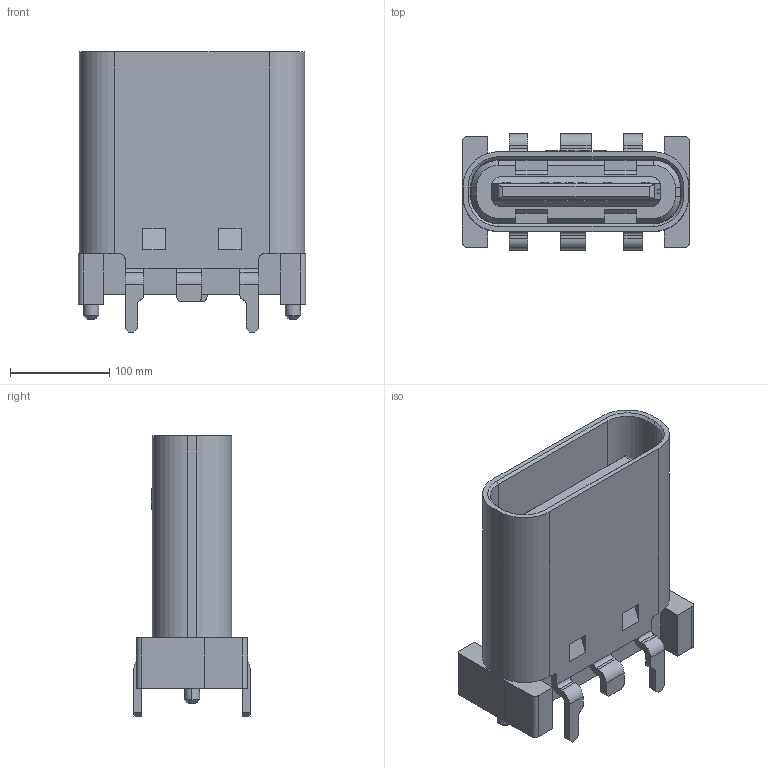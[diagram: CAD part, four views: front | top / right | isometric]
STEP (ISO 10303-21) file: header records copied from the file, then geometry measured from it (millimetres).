
FILE_DESCRIPTION (( 'STEP AP203' ), '1' );
FILE_NAME ('U5107-16PN10.0L.STEP', '2026-10-26T01:49:00', ( '' ), ( '' ), 'SwSTEP 2.0', 'SolidWorks 2024', '' );
FILE_SCHEMA (( 'CONFIG_CONTROL_DESIGN' ));
Length unit declared in the file: millimetre
Products named in the file (12): PRT0018; U5107-16PN10.0L; ASM0012_ASM; PRT0022; PRT0021; PRT0019; PRT0025; PRT0020; ASM0011_ASM; PRT0026; PRT0024; PRT0023
Assembly tree (12 placements, depth 4):
  U5107-16PN10.0L
    ASM0011_ASM
      ASM0012_ASM
        PRT0021
        PRT0022
        PRT0023
        PRT0024
        PRT0025
        PRT0026
      PRT0018
      PRT0019  x2
      PRT0020
Bounding box: 228.6 x 116.84 x 281.94 mm (x, y, z)
Volume: 2933684.2 mm3; surface area: 708779.1 mm2
Topology: 10 solids, 20 shells, 1640 faces, 4570 edges, 3009 vertices
Faces by surface type: plane 1288, cylinder 280, torus 32, bspline 25, cone 15
Entity records: 40426 total; most frequent: CARTESIAN_POINT 8920, ORIENTED_EDGE 6508, DIRECTION 5930, EDGE_CURVE 3254, VECTOR 2666, LINE 2666, VERTEX_POINT 2140, AXIS2_PLACEMENT_3D 1632
